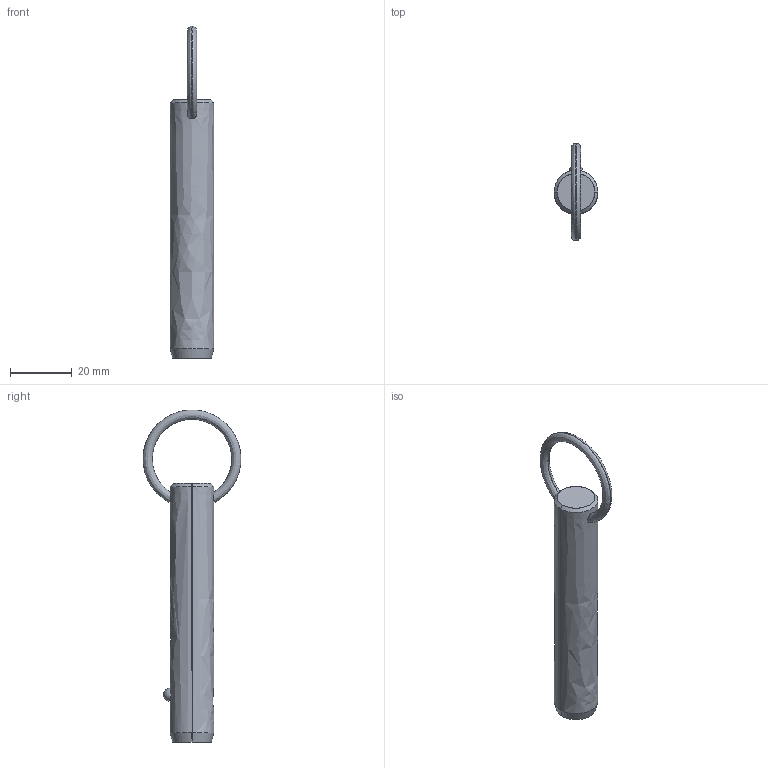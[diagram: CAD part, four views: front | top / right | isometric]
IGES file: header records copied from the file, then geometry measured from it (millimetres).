
Start section: SolidWorks IGES file using analytic representation for surfaces
Global section: file name: C:\Users\liam_\OneDrive\Documents\WORK\Work for WixRoyd\Job Files\J-00019 - Matt Davis CAD Checking\04. CAD Drawings\automotion20190605\P1250.2_v2\P1250.2_v2_20190729_IGES\P1250.056-230.igs; native system: SolidWorks 2017; preprocessor: SolidWorks 2017; author: liam_; date: 190729.231802; units: millimetre
Bounding box: 14.2 x 31.7 x 107.5 mm (x, y, z)
Surface area: 4699.8 mm2 (no closed solid volume)
Topology: 0 solids, 0 shells, 12 faces, 285 edges, 283 vertices
Faces by surface type: revolution 8, bspline 4
